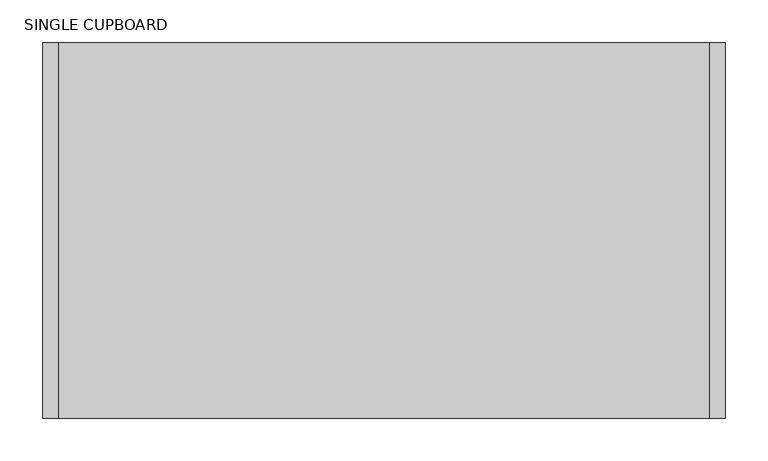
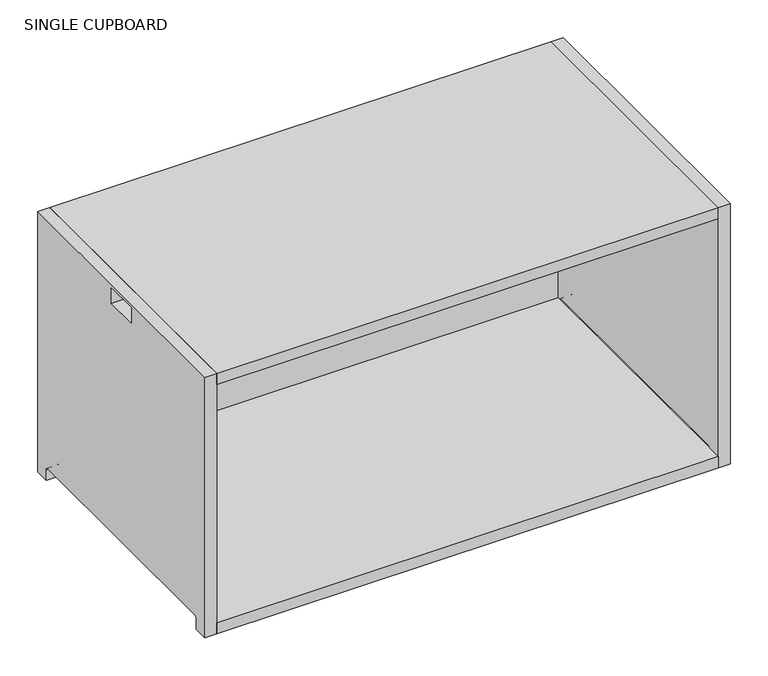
"""IFC4 building model written with IfcOpenShell, lengths in millimetres: furniture geometry, SINGLE CUPBOARD : 800mmW_NO DIVIDER."""

import ifcopenshell
import ifcopenshell.guid

model = None  # the IFC model being written
_history = None  # IfcOwnerHistory: only IFC2X3 demands one
_inside = {}  # id of a spatial element -> (the spatial element, [elements in it])
_under = {}  # id of a project, library or spatial element -> (it, [spatial elements below it])
_declared = {}  # id of a project -> (the project, [libraries it declares])
_typed = {}  # id of a type object -> (the type object, [elements of that type])
_made_of = {}  # id of a material, layer set ... -> (it, [elements and type objects made of it])


def new_model(schema):
    """Start an empty IFC model of exactly this schema.

    Asked for "IFC4X3", IfcOpenShell would pick the latest addendum, in which some entities
    have other attributes; the version numbers below select the first issue.
    IFC2X3 requires an IfcOwnerHistory on every rooted entity: one is made here for all.
    """
    global model, _history
    if schema == "IFC4X3":
        model = ifcopenshell.file(schema_version=(4, 3, 0, 0))
    else:
        model = ifcopenshell.file(schema=schema)
    _inside.clear()
    _under.clear()
    _declared.clear()
    _typed.clear()
    _made_of.clear()
    _history = None
    if model.schema == "IFC2X3":
        org = make("IfcOrganization", Name="unknown")
        user = make(
            "IfcPersonAndOrganization",
            ThePerson=make("IfcPerson", FamilyName="unknown"),
            TheOrganization=org,
        )
        app = make(
            "IfcApplication",
            ApplicationDeveloper=org,
            Version="unknown",
            ApplicationFullName="unknown",
            ApplicationIdentifier="unknown",
        )
        _history = make(
            "IfcOwnerHistory",
            OwningUser=user,
            OwningApplication=app,
            ChangeAction="ADDED",
            CreationDate=0,
        )
    return model


def make(cls, **values):
    """One entity of the class cls with the attributes given. An attribute that is None is left unset."""
    return model.create_entity(
        cls, **{name: value for name, value in values.items() if value is not None}
    )


def rooted(cls, **values):
    """An entity with a GlobalId (a new one), such as an element, a storey or a relation."""
    return make(cls, GlobalId=ifcopenshell.guid.new(), OwnerHistory=_history, **values)


def si_unit(unit_type, name, prefix=None):
    """IfcSIUnit, for example si_unit("LENGTHUNIT", "METRE", prefix="MILLI")."""
    return make("IfcSIUnit", UnitType=unit_type, Prefix=prefix, Name=name)


def assignment(units):
    """IfcUnitAssignment: the units of a project."""
    return None if units is None else make("IfcUnitAssignment", Units=units)


def point(xyz):
    """IfcCartesianPoint."""
    return None if xyz is None else make("IfcCartesianPoint", Coordinates=xyz)


def direction(xyz):
    """IfcDirection."""
    return None if xyz is None else make("IfcDirection", DirectionRatios=xyz)


def frame(location, z_axis=None, x_axis=None):
    """IfcAxis2Placement3D, a coordinate frame: its origin and axes. An axis left out is left unset."""
    return make(
        "IfcAxis2Placement3D",
        Location=point(location),
        Axis=direction(z_axis),
        RefDirection=direction(x_axis),
    )


def frame_2d(location, x_axis=None):
    """IfcAxis2Placement2D, a coordinate frame in the plane: its origin and x axis."""
    return make(
        "IfcAxis2Placement2D", Location=point(location), RefDirection=direction(x_axis)
    )


def origin():
    """The frame at (0, 0, 0) with its axes left unset."""
    return frame((0.0, 0.0, 0.0))


def place(relative_to, where):
    """IfcLocalPlacement: puts the frame where relative to a parent placement (None: the world)."""
    return make(
        "IfcLocalPlacement", PlacementRelTo=relative_to, RelativePlacement=where
    )


def context(
    kind, dimensions, precision=None, world=None, true_north=None, identifier=None
):
    """IfcGeometricRepresentationContext, for example the 3D "Model" context."""
    return make(
        "IfcGeometricRepresentationContext",
        ContextIdentifier=identifier,
        ContextType=kind,
        CoordinateSpaceDimension=dimensions,
        Precision=precision,
        WorldCoordinateSystem=world,
        TrueNorth=true_north,
    )


def project(units=None, contexts=None):
    """IfcProject with its units and contexts."""
    return rooted(
        "IfcProject",
        Name="project",
        RepresentationContexts=contexts,
        UnitsInContext=assignment(units),
    )


def spatial(cls, under=None, at=None, **own):
    """A site, building, storey or space (cls), placed at a placement, below another one or the project."""
    s = rooted(cls, ObjectPlacement=at, **own)
    if under is not None:
        _under.setdefault(under.id(), (under, []))[1].append(s)
    return s


def polyline(points):
    """IfcPolyline through the points."""
    return make("IfcPolyline", Points=[point(p) for p in points])


def circle_curve(where, radius):
    """IfcCircle in the frame where."""
    return make("IfcCircle", Position=where, Radius=radius)


def trimmed(basis, trim1, trim2, sense, master):
    """IfcTrimmedCurve: the piece of a basis curve between two trims."""
    return make(
        "IfcTrimmedCurve",
        BasisCurve=basis,
        Trim1=trim1,
        Trim2=trim2,
        SenseAgreement=sense,
        MasterRepresentation=master,
    )


def segment(curve, same_sense, transition):
    """IfcCompositeCurveSegment."""
    return make(
        "IfcCompositeCurveSegment",
        Transition=transition,
        SameSense=same_sense,
        ParentCurve=curve,
    )


def composite_curve(segments, self_intersect=None):
    """IfcCompositeCurve: segments joined end to end."""
    return make("IfcCompositeCurve", Segments=segments, SelfIntersect=self_intersect)


def outline(outer, holes=None, kind="AREA"):
    """IfcArbitraryClosedProfileDef: a profile drawn as a closed curve; with holes, ...WithVoids."""
    if holes is None:
        return make("IfcArbitraryClosedProfileDef", ProfileType=kind, OuterCurve=outer)
    return make(
        "IfcArbitraryProfileDefWithVoids",
        ProfileType=kind,
        OuterCurve=outer,
        InnerCurves=holes,
    )


def extrude(swept, where, along, depth):
    """IfcExtrudedAreaSolid: the profile swept, set in the frame where, extruded along a direction by depth."""
    return make(
        "IfcExtrudedAreaSolid",
        SweptArea=swept,
        Position=where,
        ExtrudedDirection=direction(along),
        Depth=depth,
    )


def shape(context_of_items, identifier, shape_type, items):
    """IfcShapeRepresentation: the items that make up one representation, for example the "Body"."""
    return make(
        "IfcShapeRepresentation",
        ContextOfItems=context_of_items,
        RepresentationIdentifier=identifier,
        RepresentationType=shape_type,
        Items=items,
    )


def source(mapping_origin, context_of_items, identifier, shape_type, items):
    """IfcRepresentationMap: a shape defined once, which mapped items show again and again."""
    return make(
        "IfcRepresentationMap",
        MappingOrigin=mapping_origin,
        MappedRepresentation=shape(context_of_items, identifier, shape_type, items),
    )


def transform(
    local_origin,
    x_axis=None,
    y_axis=None,
    z_axis=None,
    scale=None,
    scale2=None,
    scale3=None,
    uniform=True,
):
    """IfcCartesianTransformationOperator3D, or its non-uniform kind. x_axis, y_axis, z_axis: its Axis1, 2, 3."""
    if uniform:
        return make(
            "IfcCartesianTransformationOperator3D",
            Axis1=direction(x_axis),
            Axis2=direction(y_axis),
            LocalOrigin=point(local_origin),
            Scale=scale,
            Axis3=direction(z_axis),
        )
    return make(
        "IfcCartesianTransformationOperator3DnonUniform",
        Axis1=direction(x_axis),
        Axis2=direction(y_axis),
        LocalOrigin=point(local_origin),
        Scale=scale,
        Axis3=direction(z_axis),
        Scale2=scale2,
        Scale3=scale3,
    )


def mapped(mapping_source, mapping_target):
    """IfcMappedItem: shows the shape of a source again, moved by a transform."""
    return make(
        "IfcMappedItem", MappingSource=mapping_source, MappingTarget=mapping_target
    )


def made_of(thing, what):
    """Note that an element or type object is made of a material, layer set ...; save() writes the relation."""
    if what is not None:
        _made_of.setdefault(what.id(), (what, []))[1].append(thing)
    return thing


def element(
    cls,
    number,
    at=None,
    inside=None,
    cuts=None,
    type_object=None,
    material=None,
    context=None,
    identifier="Body",
    shape_type=None,
    held_by="IfcProductDefinitionShape",
    body=None,
    shapes=None,
    **own,
):
    """One element of the class cls, such as IfcWall. Its Tag is "e" and its number.

    at: its placement. inside: the storey or other place that contains it. cuts: it is an
    opening in that element (IfcRelVoidsElement). A single representation is given by context,
    identifier, shape_type and body (its items); several are given by shapes. held_by: the class
    of the entity that holds the representations. save() writes the other relations.
    """
    e = rooted(cls, Tag="e%d" % number, ObjectPlacement=at, **own)
    if body is not None:
        shapes = [shape(context, identifier, shape_type, body)]
    if shapes is not None:
        e.Representation = make(held_by, Representations=shapes)
    if inside is not None:
        _inside.setdefault(inside.id(), (inside, []))[1].append(e)
    if cuts is not None:
        rooted(
            "IfcRelVoidsElement", RelatingBuildingElement=cuts, RelatedOpeningElement=e
        )
    if type_object is not None:
        _typed.setdefault(type_object.id(), (type_object, []))[1].append(e)
    return made_of(e, material)


def aggregate(whole, parts):
    """IfcRelAggregates: a whole, such as a stair, and the parts it consists of."""
    return rooted("IfcRelAggregates", RelatingObject=whole, RelatedObjects=parts)


def save(model, path):
    """Write the relations noted so far, then the file.

    IfcRelAggregates (storeys below a building ...), IfcRelContainedInSpatialStructure (elements
    in a storey), IfcRelDefinesByType, IfcRelAssociatesMaterial and IfcRelDeclares: one each for
    every whole, place, type object, material and project.
    """
    for whole, parts in _under.values():
        aggregate(whole, parts)
    for where, things in _inside.values():
        rooted(
            "IfcRelContainedInSpatialStructure",
            RelatedElements=things,
            RelatingStructure=where,
        )
    for kind, things in _typed.values():
        rooted("IfcRelDefinesByType", RelatedObjects=things, RelatingType=kind)
    for what, things in _made_of.values():
        rooted("IfcRelAssociatesMaterial", RelatedObjects=things, RelatingMaterial=what)
    for by, libraries in _declared.values():
        rooted("IfcRelDeclares", RelatingContext=by, RelatedDefinitions=libraries)
    model.write(path)


def plane_surface(at):
    """IfcPlane: the flat surface through the origin of the frame at, square to its z axis."""
    return make("IfcPlane", Position=at)


def revolved_surface(curve, axis_point, axis_direction):
    """IfcSurfaceOfRevolution: the curve turned about the line through axis_point along axis_direction."""
    return make(
        "IfcSurfaceOfRevolution",
        SweptCurve=make("IfcArbitraryOpenProfileDef", ProfileType="CURVE", Curve=curve),
        AxisPosition=make("IfcAxis1Placement", Location=point(axis_point), Axis=direction(axis_direction)),
    )


def advanced_brep(points, edges, surfaces, faces):
    """IfcAdvancedBrep: a solid bounded by faces that lie on surfaces and meet in shared edges.

    An edge is (start, end): straight between two places in points (the first is 0);
    or (start, end, curve); or (start, end, curve, False) where it runs against its curve.
    A face is (place in surfaces, loops), or (place, loops, False) where it looks against
    its surface's normal. A loop lists edges by number (the first is 1), with a minus sign
    where the edge is run from its end to its start. The first loop is the outer one.
    """
    corners = [point(p) for p in points]
    vertices = [make("IfcVertexPoint", VertexGeometry=c) for c in corners]
    made = []
    for start, end, *more in edges:
        made.append(
            make(
                "IfcEdgeCurve",
                EdgeStart=vertices[start],
                EdgeEnd=vertices[end],
                EdgeGeometry=more[0] if more else make("IfcPolyline", Points=[corners[start], corners[end]]),
                SameSense=more[1] if len(more) > 1 else True,
            )
        )
    hull = []
    for where, loops, *sense in faces:
        bounds = []
        for j, loop in enumerate(loops):
            ring = [make("IfcOrientedEdge", EdgeElement=made[abs(k) - 1], Orientation=k > 0) for k in loop]
            bounds.append(
                make(
                    "IfcFaceOuterBound" if j == 0 else "IfcFaceBound",
                    Bound=make("IfcEdgeLoop", EdgeList=ring),
                    Orientation=True,
                )
            )
        hull.append(make("IfcAdvancedFace", Bounds=bounds, FaceSurface=surfaces[where], SameSense=sense[0] if sense else True))
    return make("IfcAdvancedBrep", Outer=make("IfcClosedShell", CfsFaces=hull))


def single_cupboard_dd112e9a(model_context):
    return source(origin(), model_context, "Body", "SolidModel", [
        extrude(outline(composite_curve([segment(polyline([(-220.0, 419.5), (220.0, 419.5), (220.0, 0.0), (198.0, 0.0), (198.0, 17.0)]), True, "CONTINUOUS"), segment(trimmed(circle_curve(frame_2d((194.0, 17.0)), 4.0), [point((198.0, 17.0))], [point((194.0, 21.0))], True, "CARTESIAN"), True, "CONTINUOUS"), segment(polyline([(194.0, 21.0), (-194.0, 21.0)]), True, "CONTINUOUS"), segment(trimmed(circle_curve(frame_2d((-194.0, 17.0)), 4.0), [point((-194.0, 21.0))], [point((-198.0, 17.0))], True, "CARTESIAN"), True, "CONTINUOUS"), segment(polyline([(-198.0, 17.0), (-198.0, 0.0), (-220.0, 0.0), (-220.0, 419.5)]), True, "CONTINUOUS")], self_intersect=False), holes=[polyline([(-26.0, 414.5), (-26.0, 389.5), (26.0, 389.5), (26.0, 414.5), (-26.0, 414.5)])]), frame((-400.0, 0.0, 0.0), z_axis=(1.0, 0.0, 0.0), x_axis=(0.0, 1.0, 0.0)), (0.0, 0.0, 1.0), 18.0),
        advanced_brep(
        [(382.0, 220.0, 18.0), (-382.0, 220.0, 18.0), (-382.0, 197.8729833, 18.0), (-376.1019215, 197.8729833, 18.0), (-376.1019215, -197.8729833, 18.0), (-382.0, -197.8729833, 18.0), (-382.0, -220.0, 18.0), (382.0, -220.0, 18.0), (382.0, 220.0, 0.0), (382.0, -220.0, 0.0), (-382.0, -220.0, 0.0), (-382.0, -198.0, 0.0), (-376.1019215, -198.0, 0.0), (-376.1019215, 198.0, 0.0), (-382.0, 198.0, 0.0), (-382.0, 220.0, 0.0), (-382.0, 198.0, 17.0), (-382.0, -198.0, 17.0), (-376.1019215, 198.0, 17.0), (-376.1019215, -198.0, 17.0)],
        [
            (0, 1),
            (1, 2),
            (2, 3),
            (3, 4),
            (4, 5),
            (5, 6),
            (6, 7),
            (7, 0),
            (8, 9),
            (9, 10),
            (10, 11),
            (11, 12),
            (12, 13),
            (13, 14),
            (14, 15),
            (15, 8),
            (0, 8),
            (15, 1),
            (14, 16),
            (16, 2, circle_curve(frame((-382.0, 194.0, 17.0), z_axis=(1.0, 0.0, 0.0), x_axis=(0.0, 1.0, 0.0)), 4.0)),
            (10, 6),
            (5, 17, circle_curve(frame((-382.0, -194.0, 17.0), z_axis=(1.0, 0.0, 0.0), x_axis=(0.0, 1.0, 0.0)), 4.0)),
            (17, 11),
            (9, 7),
            (18, 13),
            (12, 19),
            (19, 4, circle_curve(frame((-376.1019215, -194.0, 17.0), z_axis=(-1.0, 0.0, 0.0), x_axis=(0.0, 1.0, 0.0)), 4.0)),
            (3, 18, circle_curve(frame((-376.1019215, 194.0, 17.0), z_axis=(-1.0, 0.0, 0.0), x_axis=(0.0, 1.0, 0.0)), 4.0)),
            (19, 17),
            (18, 16),
        ],
        [
            plane_surface(frame((-382.0, 220.0, 18.0), z_axis=(0.0, 0.0, 1.0), x_axis=(-1.0, 0.0, 0.0))),
            plane_surface(frame((-382.0, 220.0, 0.0), z_axis=(0.0, 0.0, -1.0), x_axis=(1.0, 0.0, 0.0))),
            plane_surface(frame((382.0, 220.0, 18.0), z_axis=(0.0, 1.0, 0.0), x_axis=(0.0, 0.0, -1.0))),
            plane_surface(frame((-382.0, 220.0, 18.0), z_axis=(-1.0, 0.0, 0.0), x_axis=(0.0, 0.0, -1.0))),
            plane_surface(frame((-382.0, -220.0, 18.0), z_axis=(0.0, -1.0, 0.0), x_axis=(0.0, 0.0, -1.0))),
            plane_surface(frame((382.0, -220.0, 18.0), z_axis=(1.0, 0.0, 0.0), x_axis=(0.0, 0.0, -1.0))),
            plane_surface(frame((-376.1019215, -190.0, 17.0), z_axis=(-1.0, 0.0, 0.0), x_axis=(0.0, 0.0, 1.0))),
            revolved_surface(polyline([(-376.1019215, -190.0, 17.0), (-382.0, -190.0, 17.0)]), (-406.0458228, -194.0, 17.0), (1.0, 0.0, 0.0)),
            plane_surface(frame((-376.1019215, -198.0, 17.0), z_axis=(0.0, 1.0, 0.0), x_axis=(-1.0, 0.0, 0.0))),
            plane_surface(frame((-376.1019215, 198.0, 0.0), z_axis=(0.0, -1.0, 0.0), x_axis=(-1.0, 0.0, 0.0))),
            revolved_surface(polyline([(-376.1019215, 198.0, 17.0), (-382.0, 198.0, 17.0)]), (-406.0458228, 194.0, 17.0), (1.0, 0.0, 0.0)),
        ],
        [
            (0, [[1, 2, 3, 4, 5, 6, 7, 8]]),
            (1, [[9, 10, 11, 12, 13, 14, 15, 16]]),
            (2, [[-1, 17, -16, 18]]),
            (3, [[-18, -15, 19, 20, -2]]),
            (3, [[21, -6, 22, 23, -11]]),
            (4, [[-7, -21, -10, 24]]),
            (5, [[-8, -24, -9, -17]]),
            (6, [[25, -13, 26, 27, -4, 28]]),
            (7, [[-27, 29, -22, -5]]),
            (8, [[-26, -12, -23, -29]]),
            (9, [[-25, 30, -19, -14]]),
            (10, [[-28, -3, -20, -30]]),
        ],
    ),
        extrude(outline(composite_curve([segment(polyline([(-220.0, 419.5), (220.0, 419.5), (220.0, 0.0), (198.0, 0.0), (198.0, 17.0)]), True, "CONTINUOUS"), segment(trimmed(circle_curve(frame_2d((194.0, 17.0)), 4.0), [point((198.0, 17.0))], [point((194.0, 21.0))], True, "CARTESIAN"), True, "CONTINUOUS"), segment(polyline([(194.0, 21.0), (-194.0, 21.0)]), True, "CONTINUOUS"), segment(trimmed(circle_curve(frame_2d((-194.0, 17.0)), 4.0), [point((-194.0, 21.0))], [point((-198.0, 17.0))], True, "CARTESIAN"), True, "CONTINUOUS"), segment(polyline([(-198.0, 17.0), (-198.0, 0.0), (-220.0, 0.0), (-220.0, 419.5)]), True, "CONTINUOUS")], self_intersect=False), holes=[polyline([(-26.0, 414.5), (-26.0, 389.5), (26.0, 389.5), (26.0, 414.5), (-26.0, 414.5)])]), frame((382.0, 0.0, 0.0), z_axis=(1.0, 0.0, 0.0), x_axis=(0.0, 1.0, 0.0)), (0.0, 0.0, 1.0), 18.0),
        extrude(outline(polyline([(382.0, 220.0), (382.0, 202.0), (-382.0, 202.0), (-382.0, 220.0), (382.0, 220.0)])), frame((0.0, 0.0, 18.0), z_axis=(0.0, 0.0, 1.0), x_axis=(1.0, 0.0, 0.0)), (0.0, 0.0, 1.0), 383.5),
        extrude(outline(polyline([(382.0, 220.0), (382.0, -220.0), (-382.0, -220.0), (-382.0, 220.0), (382.0, 220.0)])), frame((0.0, 0.0, 401.5), z_axis=(0.0, 0.0, 1.0), x_axis=(1.0, 0.0, 0.0)), (0.0, 0.0, 1.0), 18.0),
    ])


if __name__ == "__main__":
    model = new_model("IFC4")
    model_context = context("Model", 3, world=origin())
    ifc_project = project(units=[si_unit("LENGTHUNIT", "METRE", prefix="MILLI")], contexts=[model_context])
    site = spatial("IfcSite", under=ifc_project)
    building = spatial("IfcBuilding", under=site)
    placement = place(None, origin())
    single_cupboard_shape = single_cupboard_dd112e9a(model_context)
    element("IfcFurniture", 1, ObjectType="SINGLE CUPBOARD : 800mmW_NO DIVIDER", at=placement, inside=building, context=model_context, shape_type="MappedRepresentation", body=[
        mapped(single_cupboard_shape, transform((0.0, 0.0, 0.0), x_axis=(1.0, 0.0, 0.0), y_axis=(0.0, 1.0, 0.0), z_axis=(0.0, 0.0, 1.0))),
    ])
    save(model, "model.ifc")
